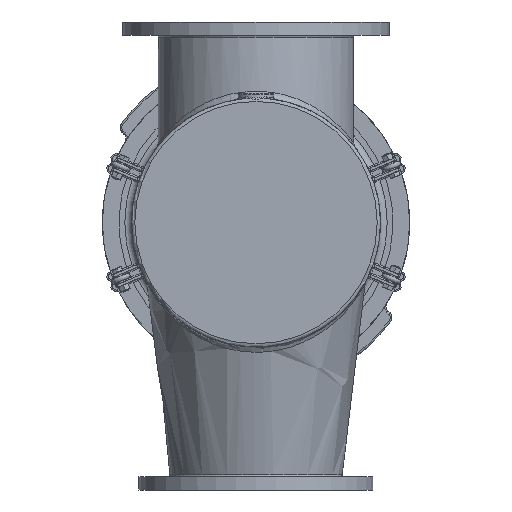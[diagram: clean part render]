
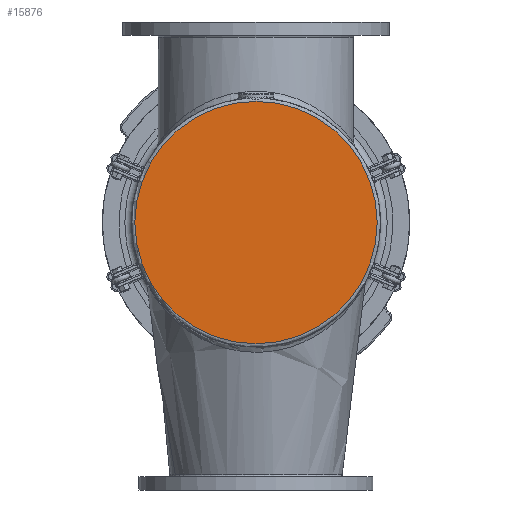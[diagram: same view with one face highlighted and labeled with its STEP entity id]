
A CAD part, front view. The second image highlights one B-rep face of the part: STEP entity #15876.
In plain terms, the highlighted planar face has unit normal (0, -1, 0).
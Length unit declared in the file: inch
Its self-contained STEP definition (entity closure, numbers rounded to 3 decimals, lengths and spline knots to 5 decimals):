
#2297=PLANE('',#16937);
#3620=FACE_OUTER_BOUND('',#4636,.T.);
#4636=EDGE_LOOP('',(#10624));
#5873=CIRCLE('',#16929,9.0625);
#6859=VERTEX_POINT('',#24258);
#8310=EDGE_CURVE('',#6859,#6859,#5873,.T.);
#10624=ORIENTED_EDGE('',*,*,#8310,.F.);
#15876=ADVANCED_FACE('',(#3620),#2297,.F.);
#16929=AXIS2_PLACEMENT_3D('',#24259,#19003,#19004);
#16937=AXIS2_PLACEMENT_3D('',#24270,#19019,#19020);
#19003=DIRECTION('center_axis',(0.,1.,0.));
#19004=DIRECTION('ref_axis',(1.,0.,0.));
#19019=DIRECTION('center_axis',(0.,1.,0.));
#19020=DIRECTION('ref_axis',(0.,0.,1.));
#24258=CARTESIAN_POINT('',(-9.0625,0.,0.));
#24259=CARTESIAN_POINT('Origin',(0.,0.,0.));
#24270=CARTESIAN_POINT('Origin',(0.,0.,0.));
